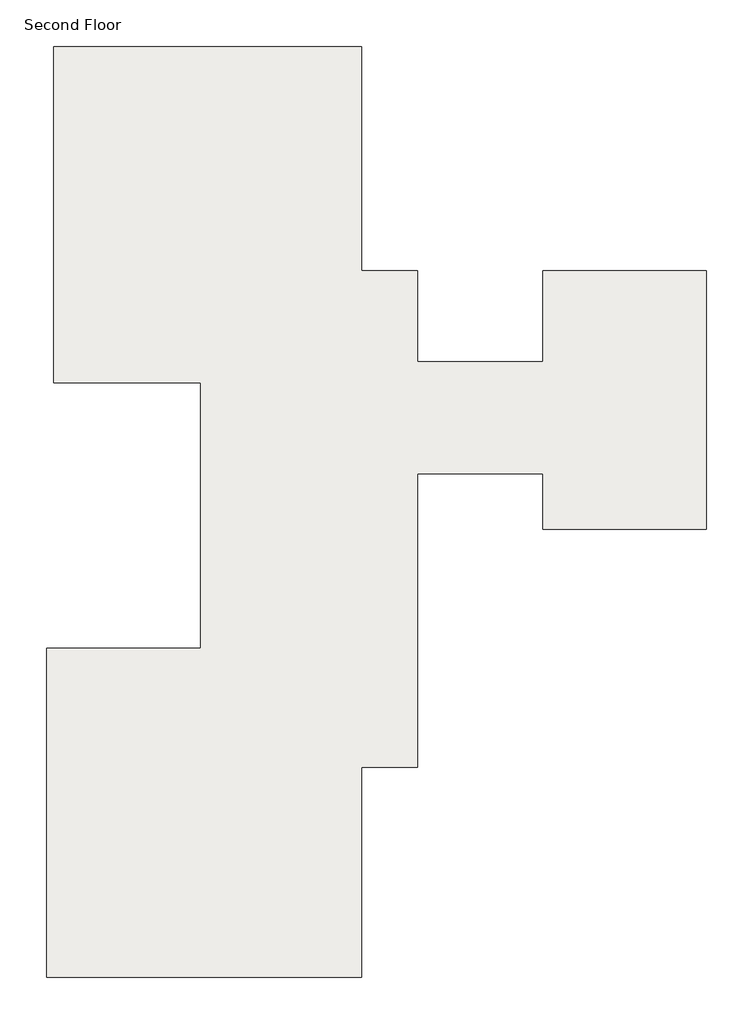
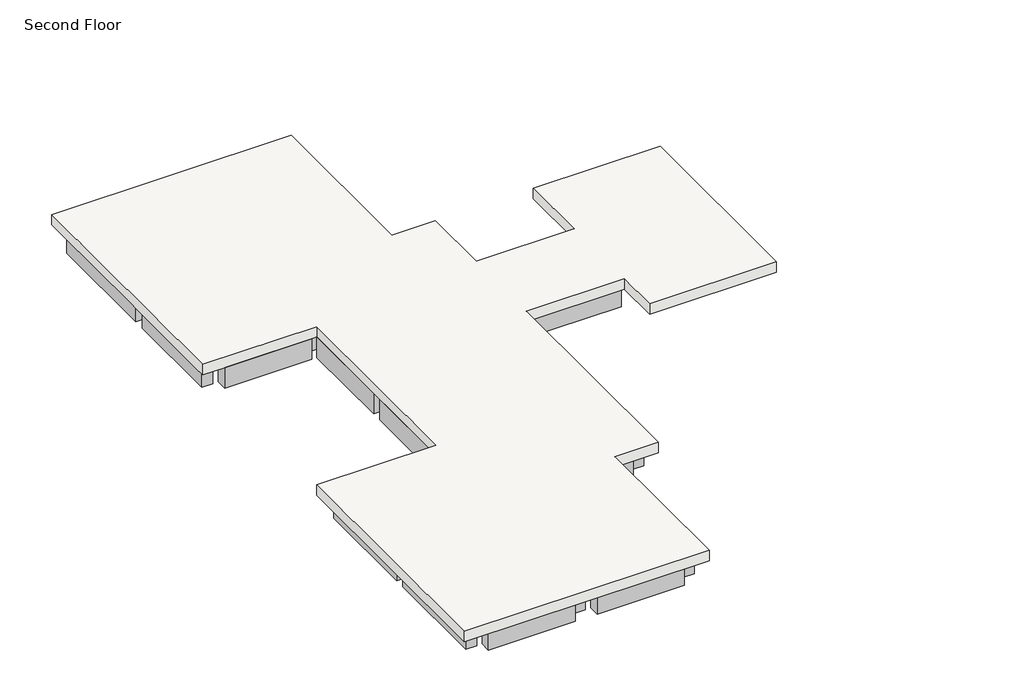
# One storey: 37 beams, 1 slab.
"""IFC4 building model written with IfcOpenShell, lengths in millimetres."""

from ifc_helpers import new_model, si_unit, frame, origin, place, context, project, spatial, polyline, outline, extrude, faceted_brep, element, save

model = new_model("IFC4")

# Units and contexts
model_context = context("Model", 3, world=origin())
ifc_project = project(units=[si_unit("LENGTHUNIT", "METRE", prefix="MILLI")], contexts=[model_context])

# Site, building, storey
site = spatial("IfcSite", under=ifc_project)
building = spatial("IfcBuilding", under=site)
storey = spatial("IfcBuildingStorey", under=building, Name="Second Floor", Elevation=3810.0)

# Beams
placement = place(None, origin())
element("IfcBeam", 1, ObjectType="Concrete-Rectangular Beam : 12 x 24", at=placement, inside=storey, context=model_context, shape_type="SweptSolid", body=[
    extrude(outline(polyline([(-28276.2572388, 22716.8740068), (-28276.2572388, 23021.6740068), (-25837.8572388, 23021.6740068), (-25837.8572388, 22716.8740068), (-28276.2572388, 22716.8740068)])), frame((0.0, 0.0, 2895.6), z_axis=(0.0, 0.0, 1.0), x_axis=(1.0, 0.0, 0.0)), (0.0, 0.0, 1.0), 609.6),
])
element("IfcBeam", 2, ObjectType="Concrete-Rectangular Beam : 12 x 24", at=placement, inside=storey, context=model_context, shape_type="SweptSolid", body=[
    extrude(outline(polyline([(-25228.2572388, 22716.8740068), (-25228.2572388, 23021.6740068), (-22789.8572388, 23021.6740068), (-22789.8572388, 22716.8740068), (-25228.2572388, 22716.8740068)])), frame((0.0, 0.0, 2895.6), z_axis=(0.0, 0.0, 1.0), x_axis=(1.0, 0.0, 0.0)), (0.0, 0.0, 1.0), 609.6),
])
element("IfcBeam", 3, ObjectType="Concrete-Rectangular Beam : 12 x 24", at=placement, inside=storey, context=model_context, shape_type="SweptSolid", body=[
    extrude(outline(polyline([(-22637.4572388, 22716.8740068), (-22332.6572388, 22716.8740068), (-22332.6572388, 19364.0740068), (-22637.4572388, 19364.0740068), (-22637.4572388, 22716.8740068)])), frame((0.0, 0.0, 2895.6), z_axis=(0.0, 0.0, 1.0), x_axis=(1.0, 0.0, 0.0)), (0.0, 0.0, 1.0), 609.6),
])
element("IfcBeam", 4, ObjectType="Concrete-Rectangular Beam : 12 x 24", at=placement, inside=storey, context=model_context, shape_type="SweptSolid", body=[
    extrude(outline(polyline([(-25228.2572388, 19059.2740068), (-25228.2572388, 19364.0740068), (-22789.8572388, 19364.0740068), (-22789.8572388, 19059.2740068), (-25228.2572388, 19059.2740068)])), frame((0.0, 0.0, 2895.6), z_axis=(0.0, 0.0, 1.0), x_axis=(1.0, 0.0, 0.0)), (0.0, 0.0, 1.0), 609.6),
])
element("IfcBeam", 5, ObjectType="Concrete-Rectangular Beam : 12 x 24", at=placement, inside=storey, context=model_context, shape_type="SweptSolid", body=[
    extrude(outline(polyline([(-25380.6572388, 22716.8740068), (-25380.6572388, 19364.0740068), (-25685.4572388, 19364.0740068), (-25685.4572388, 22716.8740068), (-25380.6572388, 22716.8740068)])), frame((0.0, 0.0, 2895.6), z_axis=(0.0, 0.0, 1.0), x_axis=(1.0, 0.0, 0.0)), (0.0, 0.0, 1.0), 609.6),
])
element("IfcBeam", 6, ObjectType="Concrete-Rectangular Beam : 12 x 24", at=placement, inside=storey, context=model_context, shape_type="SweptSolid", body=[
    extrude(outline(polyline([(-28276.2572388, 19059.2740068), (-28276.2572388, 19364.0740068), (-25837.8572388, 19364.0740068), (-25837.8572388, 19059.2740068), (-28276.2572388, 19059.2740068)])), frame((0.0, 0.0, 2895.6), z_axis=(0.0, 0.0, 1.0), x_axis=(1.0, 0.0, 0.0)), (0.0, 0.0, 1.0), 609.6),
])
element("IfcBeam", 7, ObjectType="Concrete-Rectangular Beam : 12 x 24", at=placement, inside=storey, context=model_context, shape_type="SweptSolid", body=[
    extrude(outline(polyline([(-28733.4572388, 22716.8740068), (-28428.6572388, 22716.8740068), (-28428.6572388, 19364.0740068), (-28733.4572388, 19364.0740068), (-28733.4572388, 22716.8740068)])), frame((0.0, 0.0, 2895.6), z_axis=(0.0, 0.0, 1.0), x_axis=(1.0, 0.0, 0.0)), (0.0, 0.0, 1.0), 609.6),
])
element("IfcBeam", 8, ObjectType="Concrete-Rectangular Beam : 12 x 24", at=placement, inside=storey, context=model_context, shape_type="SweptSolid", body=[
    extrude(outline(polyline([(-28733.4572388, 19059.2740068), (-28428.6572388, 19059.2740068), (-28428.6572388, 16163.6740068), (-28733.4572388, 16163.6740068), (-28733.4572388, 19059.2740068)])), frame((0.0, 0.0, 2895.6), z_axis=(0.0, 0.0, 1.0), x_axis=(1.0, 0.0, 0.0)), (0.0, 0.0, 1.0), 609.6),
])
element("IfcBeam", 9, ObjectType="Concrete-Rectangular Beam : 12 x 24", at=placement, inside=storey, context=model_context, shape_type="SweptSolid", body=[
    extrude(outline(polyline([(-28276.2572388, 15858.8740068), (-28276.2572388, 16163.6740068), (-25837.8572388, 16163.6740068), (-25837.8572388, 15858.8740068), (-28276.2572388, 15858.8740068)])), frame((0.0, 0.0, 2895.6), z_axis=(0.0, 0.0, 1.0), x_axis=(1.0, 0.0, 0.0)), (0.0, 0.0, 1.0), 609.6),
])
element("IfcBeam", 10, ObjectType="Concrete-Rectangular Beam : 12 x 24", at=placement, inside=storey, context=model_context, shape_type="SweptSolid", body=[
    extrude(outline(polyline([(-25685.4572388, 19059.2740068), (-25380.6572388, 19059.2740068), (-25380.6572388, 16163.6740068), (-25685.4572388, 16163.6740068), (-25685.4572388, 19059.2740068)])), frame((0.0, 0.0, 2895.6), z_axis=(0.0, 0.0, 1.0), x_axis=(1.0, 0.0, 0.0)), (0.0, 0.0, 1.0), 609.6),
])
element("IfcBeam", 11, ObjectType="Concrete-Rectangular Beam : 12 x 24", at=placement, inside=storey, context=model_context, shape_type="SweptSolid", body=[
    extrude(outline(polyline([(-25228.2572388, 15858.8740068), (-25228.2572388, 16163.6740068), (-21570.6572388, 16163.6740068), (-21570.6572388, 15858.8740068), (-25228.2572388, 15858.8740068)])), frame((0.0, 0.0, 2895.6), z_axis=(0.0, 0.0, 1.0), x_axis=(1.0, 0.0, 0.0)), (0.0, 0.0, 1.0), 609.6),
])
element("IfcBeam", 12, ObjectType="Concrete-Rectangular Beam : 12 x 24", at=placement, inside=storey, context=model_context, shape_type="SweptSolid", body=[
    extrude(outline(polyline([(-21418.2572388, 17840.0740068), (-21113.4572388, 17840.0740068), (-21113.4572388, 16163.6740068), (-21418.2572388, 16163.6740068), (-21418.2572388, 17840.0740068)])), frame((0.0, 0.0, 2895.6), z_axis=(0.0, 0.0, 1.0), x_axis=(1.0, 0.0, 0.0)), (0.0, 0.0, 1.0), 609.6),
])
element("IfcBeam", 13, ObjectType="Concrete-Rectangular Beam : 12 x 24", at=placement, inside=storey, context=model_context, shape_type="Brep", body=[
    faceted_brep([(-22637.4572388, 18144.8740068, 3505.2), (-22637.4572388, 17840.0740068, 3505.2), (-21570.6572388, 17840.0740068, 3505.2), (-21570.6572388, 18144.8740068, 3505.2), (-22332.6572388, 18144.8740068, 3505.2), (-22637.4572388, 18144.8740068, 2895.6), (-21570.6572388, 18144.8740068, 2895.6), (-22332.6572388, 18144.8740068, 2895.6), (-22637.4572388, 17840.0740068, 2895.6), (-21570.6572388, 17840.0740068, 2895.6)], [[[0, 1, 2, 3, 4]], [[5, 0, 4, 3, 6, 7]], [[8, 5, 7, 6, 9]], [[1, 8, 9, 2]], [[3, 2, 9, 6]], [[1, 0, 5, 8]]]),
])
element("IfcBeam", 14, ObjectType="Concrete-Rectangular Beam : 12 x 24", at=placement, inside=storey, context=model_context, shape_type="SweptSolid", body=[
    extrude(outline(polyline([(-22637.4572388, 19059.2740068), (-22332.6572388, 19059.2740068), (-22332.6572388, 18144.8740068), (-22637.4572388, 18144.8740068), (-22637.4572388, 19059.2740068)])), frame((0.0, 0.0, 2895.6), z_axis=(0.0, 0.0, 1.0), x_axis=(1.0, 0.0, 0.0)), (0.0, 0.0, 1.0), 609.6),
])
element("IfcBeam", 15, ObjectType="Concrete-Rectangular Beam : 12 x 24", at=placement, inside=storey, context=model_context, shape_type="SweptSolid", body=[
    extrude(outline(polyline([(-20961.0572388, 15858.8740068), (-20961.0572388, 16163.6740068), (-18217.8572388, 16163.6740068), (-18217.8572388, 15858.8740068), (-20961.0572388, 15858.8740068)])), frame((0.0, 0.0, 2895.6), z_axis=(0.0, 0.0, 1.0), x_axis=(1.0, 0.0, 0.0)), (0.0, 0.0, 1.0), 609.6),
])
element("IfcBeam", 16, ObjectType="Concrete-Rectangular Beam : 12 x 24", at=placement, inside=storey, context=model_context, shape_type="SweptSolid", body=[
    extrude(outline(polyline([(-17608.2572388, 15858.8740068), (-17608.2572388, 16163.6740068), (-15271.4572388, 16163.6740068), (-15271.4572388, 15858.8740068), (-17608.2572388, 15858.8740068)])), frame((0.0, 0.0, 2895.6), z_axis=(0.0, 0.0, 1.0), x_axis=(1.0, 0.0, 0.0)), (0.0, 0.0, 1.0), 609.6),
])
element("IfcBeam", 17, ObjectType="Concrete-Rectangular Beam : 12 x 24", at=placement, inside=storey, context=model_context, shape_type="Brep", body=[
    faceted_brep([(-21113.4572388, 15858.8740068, 3505.2), (-21418.2572388, 15858.8740068, 3505.2), (-21418.2572388, 13115.6740068, 3505.2), (-21113.4572388, 13115.6740068, 3505.2), (-21113.4572388, 14030.0740068, 3505.2), (-21113.4572388, 14334.8740068, 3505.2), (-21113.4572388, 15858.8740068, 2895.6), (-21113.4572388, 13115.6740068, 2895.6), (-21113.4572388, 14030.0740068, 2895.6), (-21113.4572388, 14334.8740068, 2895.6), (-21418.2572388, 15858.8740068, 2895.6), (-21418.2572388, 13115.6740068, 2895.6)], [[[0, 1, 2, 3, 4, 5]], [[6, 0, 5, 4, 3, 7, 8, 9]], [[10, 6, 9, 8, 7, 11]], [[1, 10, 11, 2]], [[10, 1, 0, 6]], [[3, 2, 11, 7]]]),
])
element("IfcBeam", 18, ObjectType="Concrete-Rectangular Beam : 12 x 24", at=placement, inside=storey, context=model_context, shape_type="SweptSolid", body=[
    extrude(outline(polyline([(-18217.8572388, 14334.8740068), (-18217.8572388, 14030.0740068), (-21113.4572388, 14030.0740068), (-21113.4572388, 14334.8740068), (-18217.8572388, 14334.8740068)])), frame((0.0, 0.0, 2895.6), z_axis=(0.0, 0.0, 1.0), x_axis=(1.0, 0.0, 0.0)), (0.0, 0.0, 1.0), 609.6),
])
element("IfcBeam", 19, ObjectType="Concrete-Rectangular Beam : 12 x 24", at=placement, inside=storey, context=model_context, shape_type="SweptSolid", body=[
    extrude(outline(polyline([(-17608.2572388, 14030.0740068), (-17608.2572388, 14334.8740068), (-15271.4572388, 14334.8740068), (-15271.4572388, 14030.0740068), (-17608.2572388, 14030.0740068)])), frame((0.0, 0.0, 2895.6), z_axis=(0.0, 0.0, 1.0), x_axis=(1.0, 0.0, 0.0)), (0.0, 0.0, 1.0), 609.6),
])
element("IfcBeam", 20, ObjectType="Concrete-Rectangular Beam : 12 x 24", at=placement, inside=storey, context=model_context, shape_type="SweptSolid", body=[
    extrude(outline(polyline([(-25685.4572388, 15858.8740068), (-25380.6572388, 15858.8740068), (-25380.6572388, 13115.6740068), (-25685.4572388, 13115.6740068), (-25685.4572388, 15858.8740068)])), frame((0.0, 0.0, 2895.6), z_axis=(0.0, 0.0, 1.0), x_axis=(1.0, 0.0, 0.0)), (0.0, 0.0, 1.0), 609.6),
])
element("IfcBeam", 21, ObjectType="Concrete-Rectangular Beam : 12 x 24", at=placement, inside=storey, context=model_context, shape_type="SweptSolid", body=[
    extrude(outline(polyline([(-25228.2572388, 12810.8740068), (-25228.2572388, 13115.6740068), (-21570.6572388, 13115.6740068), (-21570.6572388, 12810.8740068), (-25228.2572388, 12810.8740068)])), frame((0.0, 0.0, 2895.6), z_axis=(0.0, 0.0, 1.0), x_axis=(1.0, 0.0, 0.0)), (0.0, 0.0, 1.0), 609.6),
])
element("IfcBeam", 22, ObjectType="Concrete-Rectangular Beam : 12 x 24", at=placement, inside=storey, context=model_context, shape_type="SweptSolid", body=[
    extrude(outline(polyline([(-25685.4572388, 12810.8740068), (-25380.6572388, 12810.8740068), (-25380.6572388, 10067.6740068), (-25685.4572388, 10067.6740068), (-25685.4572388, 12810.8740068)])), frame((0.0, 0.0, 2895.6), z_axis=(0.0, 0.0, 1.0), x_axis=(1.0, 0.0, 0.0)), (0.0, 0.0, 1.0), 609.6),
])
element("IfcBeam", 23, ObjectType="Concrete-Rectangular Beam : 12 x 24", at=placement, inside=storey, context=model_context, shape_type="SweptSolid", body=[
    extrude(outline(polyline([(-25228.2572388, 9762.8740068), (-25228.2572388, 10067.6740068), (-21570.6572388, 10067.6740068), (-21570.6572388, 9762.8740068), (-25228.2572388, 9762.8740068)])), frame((0.0, 0.0, 2895.6), z_axis=(0.0, 0.0, 1.0), x_axis=(1.0, 0.0, 0.0)), (0.0, 0.0, 1.0), 609.6),
])
element("IfcBeam", 24, ObjectType="Concrete-Rectangular Beam : 12 x 24", at=placement, inside=storey, context=model_context, shape_type="SweptSolid", body=[
    extrude(outline(polyline([(-21113.4572388, 10067.6740068), (-21418.2572388, 10067.6740068), (-21418.2572388, 12810.8740068), (-21113.4572388, 12810.8740068), (-21113.4572388, 10067.6740068)])), frame((0.0, 0.0, 2895.6), z_axis=(0.0, 0.0, 1.0), x_axis=(1.0, 0.0, 0.0)), (0.0, 0.0, 1.0), 609.6),
])
element("IfcBeam", 25, ObjectType="Concrete-Rectangular Beam : 12 x 24", at=placement, inside=storey, context=model_context, shape_type="SweptSolid", body=[
    extrude(outline(polyline([(-28276.2572388, 9762.8740068), (-28276.2572388, 10067.6740068), (-25837.8572388, 10067.6740068), (-25837.8572388, 9762.8740068), (-28276.2572388, 9762.8740068)])), frame((0.0, 0.0, 2895.6), z_axis=(0.0, 0.0, 1.0), x_axis=(1.0, 0.0, 0.0)), (0.0, 0.0, 1.0), 609.6),
])
element("IfcBeam", 26, ObjectType="Concrete-Rectangular Beam : 12 x 24", at=placement, inside=storey, context=model_context, shape_type="SweptSolid", body=[
    extrude(outline(polyline([(-28733.4572388, 9762.8740068), (-28428.6572388, 9762.8740068), (-28428.6572388, 6714.8740068), (-28733.4572388, 6714.8740068), (-28733.4572388, 9762.8740068)])), frame((0.0, 0.0, 2895.6), z_axis=(0.0, 0.0, 1.0), x_axis=(1.0, 0.0, 0.0)), (0.0, 0.0, 1.0), 609.6),
])
element("IfcBeam", 27, ObjectType="Concrete-Rectangular Beam : 12 x 24", at=placement, inside=storey, context=model_context, shape_type="SweptSolid", body=[
    extrude(outline(polyline([(-28276.2572388, 6410.0740068), (-28276.2572388, 6714.8740068), (-25837.8572388, 6714.8740068), (-25837.8572388, 6410.0740068), (-28276.2572388, 6410.0740068)])), frame((0.0, 0.0, 2895.6), z_axis=(0.0, 0.0, 1.0), x_axis=(1.0, 0.0, 0.0)), (0.0, 0.0, 1.0), 609.6),
])
element("IfcBeam", 28, ObjectType="Concrete-Rectangular Beam : 12 x 24", at=placement, inside=storey, context=model_context, shape_type="SweptSolid", body=[
    extrude(outline(polyline([(-25685.4572388, 9762.8740068), (-25380.6572388, 9762.8740068), (-25380.6572388, 6714.8740068), (-25685.4572388, 6714.8740068), (-25685.4572388, 9762.8740068)])), frame((0.0, 0.0, 2895.6), z_axis=(0.0, 0.0, 1.0), x_axis=(1.0, 0.0, 0.0)), (0.0, 0.0, 1.0), 609.6),
])
element("IfcBeam", 29, ObjectType="Concrete-Rectangular Beam : 12 x 24", at=placement, inside=storey, context=model_context, shape_type="SweptSolid", body=[
    extrude(outline(polyline([(-25228.2572388, 6410.0740068), (-25228.2572388, 6714.8740068), (-22789.8572388, 6714.8740068), (-22789.8572388, 6410.0740068), (-25228.2572388, 6410.0740068)])), frame((0.0, 0.0, 2895.6), z_axis=(0.0, 0.0, 1.0), x_axis=(1.0, 0.0, 0.0)), (0.0, 0.0, 1.0), 609.6),
])
element("IfcBeam", 30, ObjectType="Concrete-Rectangular Beam : 12 x 24", at=placement, inside=storey, context=model_context, shape_type="SweptSolid", body=[
    extrude(outline(polyline([(-21418.2572388, 9762.8740068), (-21113.4572388, 9762.8740068), (-21113.4572388, 7934.0740068), (-21418.2572388, 7934.0740068), (-21418.2572388, 9762.8740068)])), frame((0.0, 0.0, 2895.6), z_axis=(0.0, 0.0, 1.0), x_axis=(1.0, 0.0, 0.0)), (0.0, 0.0, 1.0), 609.6),
])
element("IfcBeam", 31, ObjectType="Concrete-Rectangular Beam : 12 x 24", at=placement, inside=storey, context=model_context, shape_type="Brep", body=[
    faceted_brep([(-22637.4572388, 7934.0740068, 3505.2), (-22637.4572388, 7629.2740068, 3505.2), (-22332.6572388, 7629.2740068, 3505.2), (-21570.6572388, 7629.2740068, 3505.2), (-21570.6572388, 7934.0740068, 3505.2), (-22637.4572388, 7934.0740068, 2895.6), (-21570.6572388, 7934.0740068, 2895.6), (-22637.4572388, 7629.2740068, 2895.6), (-21570.6572388, 7629.2740068, 2895.6), (-22332.6572388, 7629.2740068, 2895.6)], [[[0, 1, 2, 3, 4]], [[5, 0, 4, 6]], [[7, 5, 6, 8, 9]], [[1, 7, 9, 8, 3, 2]], [[4, 3, 8, 6]], [[1, 0, 5, 7]]]),
])
element("IfcBeam", 32, ObjectType="Concrete-Rectangular Beam : 12 x 24", at=placement, inside=storey, context=model_context, shape_type="SweptSolid", body=[
    extrude(outline(polyline([(-22332.6572388, 6714.8740068), (-22637.4572388, 6714.8740068), (-22637.4572388, 7629.2740068), (-22332.6572388, 7629.2740068), (-22332.6572388, 6714.8740068)])), frame((0.0, 0.0, 2895.6), z_axis=(0.0, 0.0, 1.0), x_axis=(1.0, 0.0, 0.0)), (0.0, 0.0, 1.0), 609.6),
])
element("IfcBeam", 33, ObjectType="Concrete-Rectangular Beam : 12 x 24", at=placement, inside=storey, context=model_context, shape_type="SweptSolid", body=[
    extrude(outline(polyline([(-22637.4572388, 6410.0740068), (-22332.6572388, 6410.0740068), (-22332.6572388, 3362.0740068), (-22637.4572388, 3362.0740068), (-22637.4572388, 6410.0740068)])), frame((0.0, 0.0, 2895.6), z_axis=(0.0, 0.0, 1.0), x_axis=(1.0, 0.0, 0.0)), (0.0, 0.0, 1.0), 609.6),
])
element("IfcBeam", 34, ObjectType="Concrete-Rectangular Beam : 12 x 24", at=placement, inside=storey, context=model_context, shape_type="SweptSolid", body=[
    extrude(outline(polyline([(-25228.2572388, 3057.2740068), (-25228.2572388, 3362.0740068), (-22789.8572388, 3362.0740068), (-22789.8572388, 3057.2740068), (-25228.2572388, 3057.2740068)])), frame((0.0, 0.0, 2895.6), z_axis=(0.0, 0.0, 1.0), x_axis=(1.0, 0.0, 0.0)), (0.0, 0.0, 1.0), 609.6),
])
element("IfcBeam", 35, ObjectType="Concrete-Rectangular Beam : 12 x 24", at=placement, inside=storey, context=model_context, shape_type="SweptSolid", body=[
    extrude(outline(polyline([(-25685.4572388, 6410.0740068), (-25380.6572388, 6410.0740068), (-25380.6572388, 3362.0740068), (-25685.4572388, 3362.0740068), (-25685.4572388, 6410.0740068)])), frame((0.0, 0.0, 2895.6), z_axis=(0.0, 0.0, 1.0), x_axis=(1.0, 0.0, 0.0)), (0.0, 0.0, 1.0), 609.6),
])
element("IfcBeam", 36, ObjectType="Concrete-Rectangular Beam : 12 x 24", at=placement, inside=storey, context=model_context, shape_type="SweptSolid", body=[
    extrude(outline(polyline([(-28733.4572388, 6410.0740068), (-28428.6572388, 6410.0740068), (-28428.6572388, 3362.0740068), (-28733.4572388, 3362.0740068), (-28733.4572388, 6410.0740068)])), frame((0.0, 0.0, 2895.6), z_axis=(0.0, 0.0, 1.0), x_axis=(1.0, 0.0, 0.0)), (0.0, 0.0, 1.0), 609.6),
])
element("IfcBeam", 37, ObjectType="Concrete-Rectangular Beam : 12 x 24", at=placement, inside=storey, context=model_context, shape_type="SweptSolid", body=[
    extrude(outline(polyline([(-28276.2572388, 3057.2740068), (-28276.2572388, 3362.0740068), (-25837.8572388, 3362.0740068), (-25837.8572388, 3057.2740068), (-28276.2572388, 3057.2740068)])), frame((0.0, 0.0, 2895.6), z_axis=(0.0, 0.0, 1.0), x_axis=(1.0, 0.0, 0.0)), (0.0, 0.0, 1.0), 609.6),
])

# Slab
element("IfcSlab", 38, ObjectType="Generic - 12\"", at=placement, inside=storey, context=model_context, shape_type="Brep", body=[
    faceted_brep([(-22180.2572388, 23174.0740068, 3505.2), (-22180.2572388, 23021.6740068, 3505.2), (-22180.2572388, 22716.8740068, 3505.2), (-22180.2572388, 19364.0740068, 3505.2), (-22180.2572388, 19059.2740068, 3505.2), (-22180.2572388, 18297.2740068, 3505.2), (-20961.0572388, 18297.2740068, 3505.2), (-20961.0572388, 18144.8740068, 3505.2), (-20961.0572388, 17840.0740068, 3505.2), (-20961.0572388, 16316.0740068, 3505.2), (-18217.8572388, 16316.0740068, 3505.2), (-18217.8572388, 18297.2740068, 3505.2), (-14661.8572388, 18297.2740068, 3505.2), (-14661.8572388, 16163.6740068, 3505.2), (-14661.8572388, 15858.8740068, 3505.2), (-14661.8572388, 14334.8740068, 3505.2), (-14661.8572388, 14030.0740068, 3505.2), (-14661.8572388, 12658.4740068, 3505.2), (-18217.8572388, 12658.4740068, 3505.2), (-18217.8572388, 13877.6740068, 3505.2), (-20961.0572388, 13877.6740068, 3505.2), (-20961.0572388, 13115.6740068, 3505.2), (-20961.0572388, 12810.8740068, 3505.2), (-20961.0572388, 10067.6740068, 3505.2), (-20961.0572388, 9762.8740068, 3505.2), (-20961.0572388, 7934.0740068, 3505.2), (-20961.0572388, 7629.2740068, 3505.2), (-20961.0572388, 7476.8740068, 3505.2), (-22180.2572388, 7476.8740068, 3505.2), (-22180.2572388, 6714.8740068, 3505.2), (-22180.2572388, 6410.0740068, 3505.2), (-22180.2572388, 3362.0740068, 3505.2), (-22180.2572388, 3057.2740068, 3505.2), (-22180.2572388, 2904.8740068, 3505.2), (-29038.2572388, 2904.8740068, 3505.2), (-29038.2572388, 10067.6740068, 3505.2), (-28885.8572388, 10067.6740068, 3505.2), (-28276.2572388, 10067.6740068, 3505.2), (-25837.8572388, 10067.6740068, 3505.2), (-25685.4572388, 10067.6740068, 3505.2), (-25685.4572388, 12810.8740068, 3505.2), (-25685.4572388, 13115.6740068, 3505.2), (-25685.4572388, 15858.8740068, 3505.2), (-25837.8572388, 15858.8740068, 3505.2), (-28276.2572388, 15858.8740068, 3505.2), (-28885.8572388, 15858.8740068, 3505.2), (-28885.8572388, 16163.6740068, 3505.2), (-28885.8572388, 19059.2740068, 3505.2), (-28885.8572388, 19364.0740068, 3505.2), (-28885.8572388, 22716.8740068, 3505.2), (-28885.8572388, 23021.6740068, 3505.2), (-28885.8572388, 23174.0740068, 3505.2), (-22180.2572388, 23174.0740068, 3810.0), (-28885.8572388, 23174.0740068, 3810.0), (-28885.8572388, 15858.8740068, 3810.0), (-25685.4572388, 15858.8740068, 3810.0), (-25685.4572388, 10067.6740068, 3810.0), (-29038.2572388, 10067.6740068, 3810.0), (-29038.2572388, 2904.8740068, 3810.0), (-22180.2572388, 2904.8740068, 3810.0), (-22180.2572388, 7476.8740068, 3810.0), (-20961.0572388, 7476.8740068, 3810.0), (-20961.0572388, 13877.6740068, 3810.0), (-18217.8572388, 13877.6740068, 3810.0), (-18217.8572388, 12658.4740068, 3810.0), (-14661.8572388, 12658.4740068, 3810.0), (-14661.8572388, 18297.2740068, 3810.0), (-18217.8572388, 18297.2740068, 3810.0), (-18217.8572388, 16316.0740068, 3810.0), (-20961.0572388, 16316.0740068, 3810.0), (-20961.0572388, 18297.2740068, 3810.0), (-22180.2572388, 18297.2740068, 3810.0)], [[[0, 1, 2, 3, 4, 5, 6, 7, 8, 9, 10, 11, 12, 13, 14, 15, 16, 17, 18, 19, 20, 21, 22, 23, 24, 25, 26, 27, 28, 29, 30, 31, 32, 33, 34, 35, 36, 37, 38, 39, 40, 41, 42, 43, 44, 45, 46, 47, 48, 49, 50, 51]], [[52, 53, 54, 55, 56, 57, 58, 59, 60, 61, 62, 63, 64, 65, 66, 67, 68, 69, 70, 71]], [[5, 4, 3, 2, 1, 0, 52, 71]], [[6, 5, 71, 70]], [[9, 8, 7, 6, 70, 69]], [[10, 9, 69, 68]], [[11, 10, 68, 67]], [[12, 11, 67, 66]], [[17, 16, 15, 14, 13, 12, 66, 65]], [[18, 17, 65, 64]], [[19, 18, 64, 63]], [[20, 19, 63, 62]], [[27, 26, 25, 24, 23, 22, 21, 20, 62, 61]], [[28, 27, 61, 60]], [[33, 32, 31, 30, 29, 28, 60, 59]], [[34, 33, 59, 58]], [[35, 34, 58, 57]], [[39, 38, 37, 36, 35, 57, 56]], [[42, 41, 40, 39, 56, 55]], [[45, 44, 43, 42, 55, 54]], [[51, 50, 49, 48, 47, 46, 45, 54, 53]], [[0, 51, 53, 52]]]),
])

save(model, "model.ifc")
